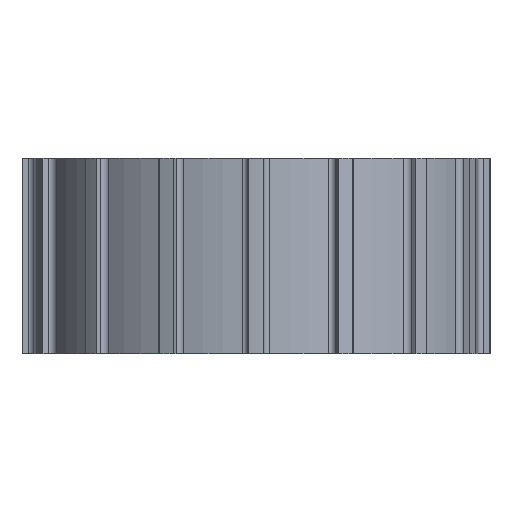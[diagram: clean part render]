
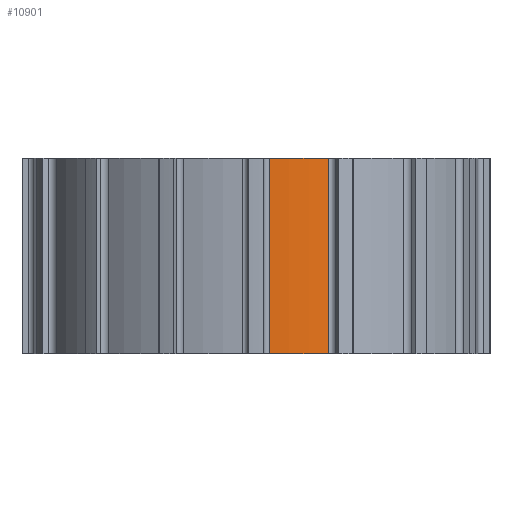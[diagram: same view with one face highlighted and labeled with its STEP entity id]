
A CAD part, front view. The second image highlights one B-rep face of the part: STEP entity #10901.
In plain terms, the highlighted cylindrical face has radius 57 mm (diameter 114 mm), a partial arc.
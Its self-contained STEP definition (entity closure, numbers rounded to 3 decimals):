
#166 = CARTESIAN_POINT ( 'NONE',  ( 0., 0., 50. ) ) ;
#390 = CARTESIAN_POINT ( 'NONE',  ( 18.623, -53.872, 50. ) ) ;
#397 = VERTEX_POINT ( 'NONE', #390 ) ;
#409 = FACE_OUTER_BOUND ( 'NONE', #4742, .T. ) ;
#438 = EDGE_CURVE ( 'NONE', #5668, #3026, #9777, .T. ) ;
#1056 = LINE ( 'NONE', #7865, #3832 ) ;
#1077 = DIRECTION ( 'NONE',  ( 0., 0., 1. ) ) ;
#1372 = DIRECTION ( 'NONE',  ( -1., 0., 0. ) ) ;
#1809 = DIRECTION ( 'NONE',  ( 1., 0., 0. ) ) ;
#2112 = CYLINDRICAL_SURFACE ( 'NONE', #5382, 57. ) ;
#2251 = ORIENTED_EDGE ( 'NONE', *, *, #438, .T. ) ;
#2323 = EDGE_CURVE ( 'NONE', #3026, #397, #1056, .T. ) ;
#2637 = CARTESIAN_POINT ( 'NONE',  ( 3.41, -56.898, 0. ) ) ;
#2882 = LINE ( 'NONE', #10112, #9247 ) ;
#3014 = CARTESIAN_POINT ( 'NONE',  ( 18.623, -53.872, 0. ) ) ;
#3026 = VERTEX_POINT ( 'NONE', #3014 ) ;
#3142 = ORIENTED_EDGE ( 'NONE', *, *, #2323, .T. ) ;
#3555 = DIRECTION ( 'NONE',  ( 0., 0., 1. ) ) ;
#3832 = VECTOR ( 'NONE', #3555, 1000. ) ;
#3878 = DIRECTION ( 'NONE',  ( 0., 0., -1. ) ) ;
#4742 = EDGE_LOOP ( 'NONE', ( #2251, #3142, #4858, #8181 ) ) ;
#4858 = ORIENTED_EDGE ( 'NONE', *, *, #5324, .F. ) ;
#5324 = EDGE_CURVE ( 'NONE', #6213, #397, #7372, .T. ) ;
#5382 = AXIS2_PLACEMENT_3D ( 'NONE', #9877, #3878, #1372 ) ;
#5455 = CARTESIAN_POINT ( 'NONE',  ( 0., 0., 0. ) ) ;
#5668 = VERTEX_POINT ( 'NONE', #2637 ) ;
#6213 = VERTEX_POINT ( 'NONE', #7846 ) ;
#6645 = AXIS2_PLACEMENT_3D ( 'NONE', #166, #1077, #1809 ) ;
#6884 = AXIS2_PLACEMENT_3D ( 'NONE', #5455, #8962, #7268 ) ;
#7268 = DIRECTION ( 'NONE',  ( 1., 0., 0. ) ) ;
#7372 = CIRCLE ( 'NONE', #6645, 57. ) ;
#7399 = DIRECTION ( 'NONE',  ( 0., 0., 1. ) ) ;
#7760 = EDGE_CURVE ( 'NONE', #5668, #6213, #2882, .T. ) ;
#7846 = CARTESIAN_POINT ( 'NONE',  ( 3.41, -56.898, 50. ) ) ;
#7865 = CARTESIAN_POINT ( 'NONE',  ( 18.623, -53.872, -7.986 ) ) ;
#8181 = ORIENTED_EDGE ( 'NONE', *, *, #7760, .F. ) ;
#8962 = DIRECTION ( 'NONE',  ( 0., 0., 1. ) ) ;
#9247 = VECTOR ( 'NONE', #7399, 1000. ) ;
#9777 = CIRCLE ( 'NONE', #6884, 57. ) ;
#9877 = CARTESIAN_POINT ( 'NONE',  ( 0., 0., 50. ) ) ;
#10112 = CARTESIAN_POINT ( 'NONE',  ( 3.41, -56.898, -7.493 ) ) ;
#10901 = ADVANCED_FACE ( 'NONE', ( #409 ), #2112, .T. ) ;
